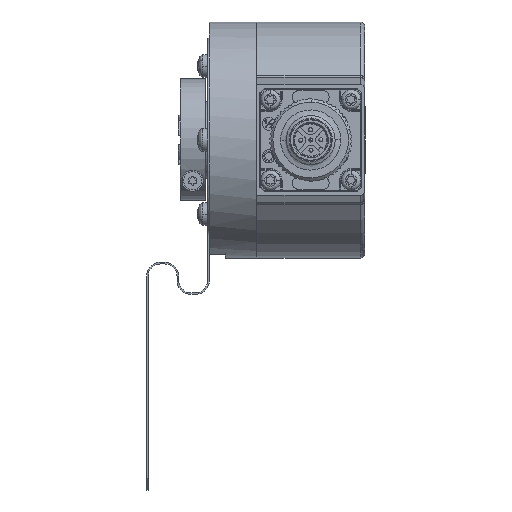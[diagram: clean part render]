
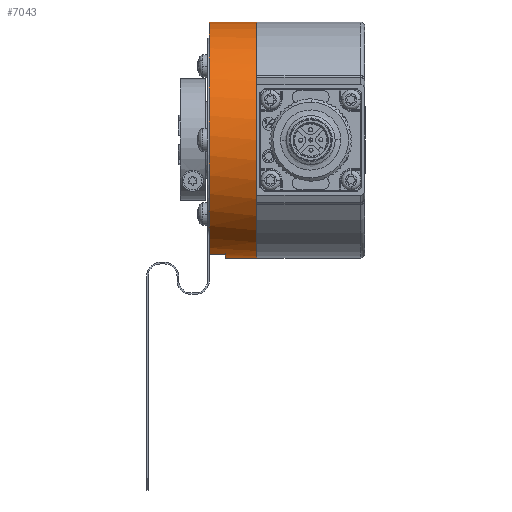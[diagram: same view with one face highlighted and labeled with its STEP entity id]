
A CAD part, front view. The second image highlights one B-rep face of the part: STEP entity #7043.
In plain terms, the highlighted cylindrical face has radius 29 mm (diameter 58 mm), a partial arc.
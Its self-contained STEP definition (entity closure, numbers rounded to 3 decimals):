
#1986 = AXIS2_PLACEMENT_3D ( 'NONE', #48409, #5684, #22715 ) ;
#3601 = VERTEX_POINT ( 'NONE', #26572 ) ;
#4020 = CIRCLE ( 'NONE', #15649, 29. ) ;
#5684 = DIRECTION ( 'NONE',  ( 1., 0., 0. ) ) ;
#7043 = ADVANCED_FACE ( 'NONE', ( #20553 ), #46233, .T. ) ;
#9209 = ORIENTED_EDGE ( 'NONE', *, *, #53597, .F. ) ;
#10237 = CARTESIAN_POINT ( 'NONE',  ( 8.068, 25.423, 0. ) ) ;
#10628 = VERTEX_POINT ( 'NONE', #13034 ) ;
#11622 = DIRECTION ( 'NONE',  ( 1., 0., 0. ) ) ;
#11741 = CARTESIAN_POINT ( 'NONE',  ( 8.068, 25.423, -29. ) ) ;
#12203 = CARTESIAN_POINT ( 'NONE',  ( 8.068, 25.423, -29. ) ) ;
#12859 = DIRECTION ( 'NONE',  ( 0., 0., 1. ) ) ;
#12909 = CARTESIAN_POINT ( 'NONE',  ( -3.622, 18.423, -28.142 ) ) ;
#13034 = CARTESIAN_POINT ( 'NONE',  ( 0.378, 18.423, -28.142 ) ) ;
#15512 = EDGE_LOOP ( 'NONE', ( #28477, #33844, #18229, #40468, #37263, #9209 ) ) ;
#15649 = AXIS2_PLACEMENT_3D ( 'NONE', #29303, #46392, #12859 ) ;
#16499 = DIRECTION ( 'NONE',  ( 1., 0., 0. ) ) ;
#17548 = CIRCLE ( 'NONE', #44312, 29. ) ;
#17657 = AXIS2_PLACEMENT_3D ( 'NONE', #50402, #11622, #45426 ) ;
#18229 = ORIENTED_EDGE ( 'NONE', *, *, #50125, .F. ) ;
#18433 = EDGE_CURVE ( 'NONE', #32767, #47740, #53714, .T. ) ;
#20553 = FACE_OUTER_BOUND ( 'NONE', #15512, .T. ) ;
#20960 = CARTESIAN_POINT ( 'NONE',  ( -3.622, 25.423, 29. ) ) ;
#22715 = DIRECTION ( 'NONE',  ( 0., 0., -1. ) ) ;
#24479 = VECTOR ( 'NONE', #54480, 1000. ) ;
#26572 = CARTESIAN_POINT ( 'NONE',  ( 0.378, 25.423, -29. ) ) ;
#27243 = DIRECTION ( 'NONE',  ( 1., 0., 0. ) ) ;
#28477 = ORIENTED_EDGE ( 'NONE', *, *, #32786, .F. ) ;
#28489 = CARTESIAN_POINT ( 'NONE',  ( 8.068, 18.423, -28.142 ) ) ;
#29303 = CARTESIAN_POINT ( 'NONE',  ( 0.378, 25.423, 0. ) ) ;
#29789 = EDGE_CURVE ( 'NONE', #3601, #40123, #50441, .T. ) ;
#32767 = VERTEX_POINT ( 'NONE', #20960 ) ;
#32786 = EDGE_CURVE ( 'NONE', #32767, #49001, #37132, .T. ) ;
#33844 = ORIENTED_EDGE ( 'NONE', *, *, #18433, .T. ) ;
#34107 = EDGE_CURVE ( 'NONE', #10628, #3601, #4020, .T. ) ;
#35069 = VECTOR ( 'NONE', #16499, 1000. ) ;
#37132 = LINE ( 'NONE', #54199, #35069 ) ;
#37263 = ORIENTED_EDGE ( 'NONE', *, *, #29789, .T. ) ;
#37415 = LINE ( 'NONE', #28489, #24479 ) ;
#37561 = VECTOR ( 'NONE', #46281, 1000. ) ;
#38302 = CARTESIAN_POINT ( 'NONE',  ( 8.068, 25.423, 29. ) ) ;
#40123 = VERTEX_POINT ( 'NONE', #11741 ) ;
#40468 = ORIENTED_EDGE ( 'NONE', *, *, #34107, .T. ) ;
#44312 = AXIS2_PLACEMENT_3D ( 'NONE', #10237, #27243, #44879 ) ;
#44879 = DIRECTION ( 'NONE',  ( 0., 0., -1. ) ) ;
#45426 = DIRECTION ( 'NONE',  ( 0., 0., -1. ) ) ;
#46233 = CYLINDRICAL_SURFACE ( 'NONE', #17657, 29. ) ;
#46281 = DIRECTION ( 'NONE',  ( 1., 0., 0. ) ) ;
#46392 = DIRECTION ( 'NONE',  ( 1., 0., 0. ) ) ;
#47740 = VERTEX_POINT ( 'NONE', #12909 ) ;
#48409 = CARTESIAN_POINT ( 'NONE',  ( -3.622, 25.423, 0. ) ) ;
#49001 = VERTEX_POINT ( 'NONE', #38302 ) ;
#50125 = EDGE_CURVE ( 'NONE', #10628, #47740, #37415, .T. ) ;
#50402 = CARTESIAN_POINT ( 'NONE',  ( 8.068, 25.423, 0. ) ) ;
#50441 = LINE ( 'NONE', #12203, #37561 ) ;
#53597 = EDGE_CURVE ( 'NONE', #49001, #40123, #17548, .T. ) ;
#53714 = CIRCLE ( 'NONE', #1986, 29. ) ;
#54199 = CARTESIAN_POINT ( 'NONE',  ( 8.068, 25.423, 29. ) ) ;
#54480 = DIRECTION ( 'NONE',  ( -1., 0., 0. ) ) ;
